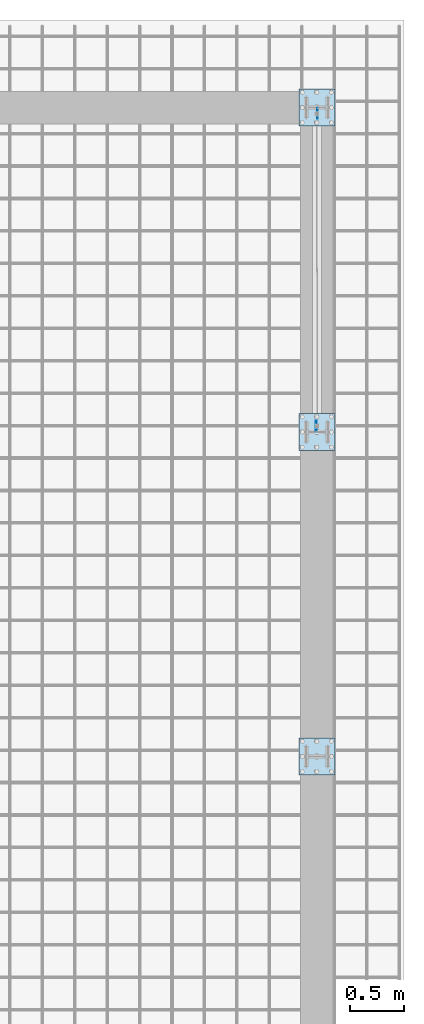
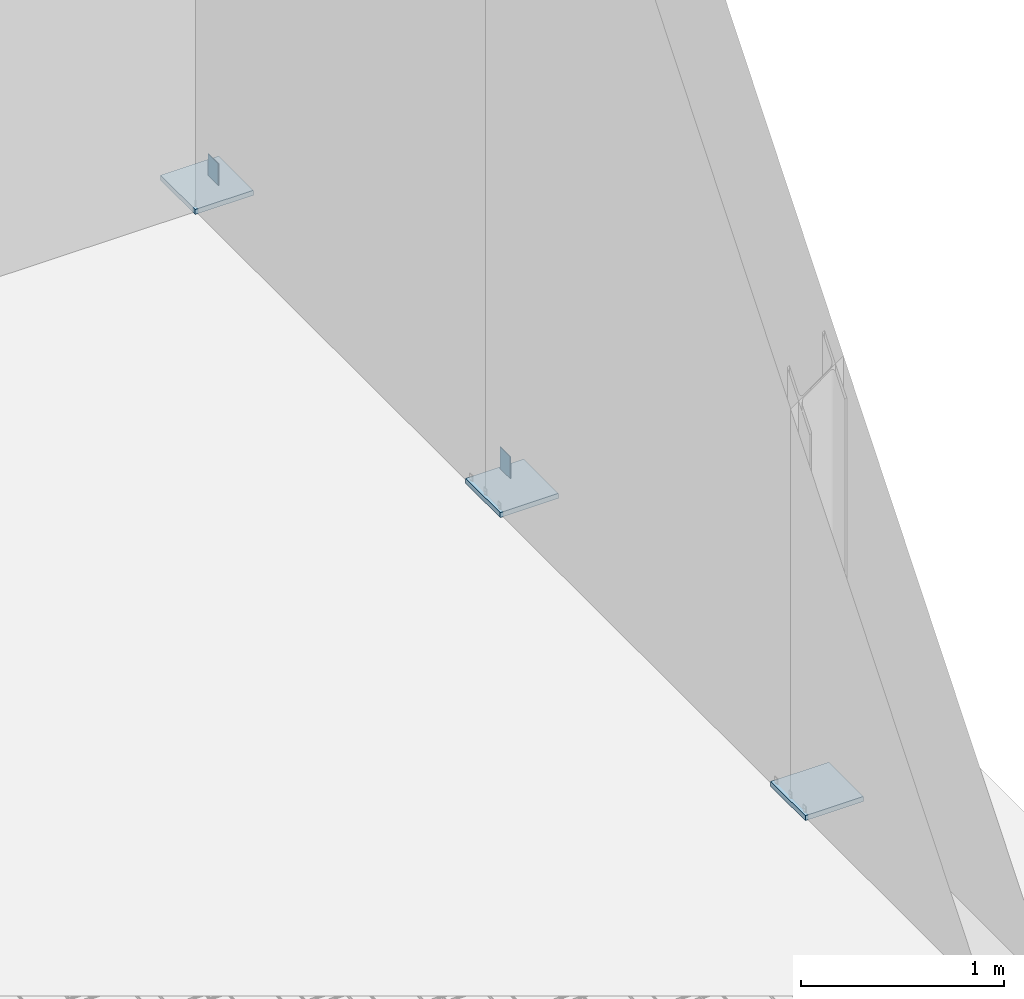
# One storey, part 3 of 29: 5 plates.
"""IFC4 building model written with IfcOpenShell, lengths in metres."""

import ifcopenshell
import ifcopenshell.guid

model = None  # the IFC model being written
_history = None  # IfcOwnerHistory: only IFC2X3 demands one
_inside = {}  # id of a spatial element -> (the spatial element, [elements in it])
_under = {}  # id of a project, library or spatial element -> (it, [spatial elements below it])
_declared = {}  # id of a project -> (the project, [libraries it declares])
_typed = {}  # id of a type object -> (the type object, [elements of that type])
_made_of = {}  # id of a material, layer set ... -> (it, [elements and type objects made of it])


def new_model(schema):
    """Start an empty IFC model of exactly this schema.

    Asked for "IFC4X3", IfcOpenShell would pick the latest addendum, in which some entities
    have other attributes; the version numbers below select the first issue.
    IFC2X3 requires an IfcOwnerHistory on every rooted entity: one is made here for all.
    """
    global model, _history
    if schema == "IFC4X3":
        model = ifcopenshell.file(schema_version=(4, 3, 0, 0))
    else:
        model = ifcopenshell.file(schema=schema)
    _inside.clear()
    _under.clear()
    _declared.clear()
    _typed.clear()
    _made_of.clear()
    _history = None
    if model.schema == "IFC2X3":
        org = make("IfcOrganization", Name="unknown")
        user = make(
            "IfcPersonAndOrganization",
            ThePerson=make("IfcPerson", FamilyName="unknown"),
            TheOrganization=org,
        )
        app = make(
            "IfcApplication",
            ApplicationDeveloper=org,
            Version="unknown",
            ApplicationFullName="unknown",
            ApplicationIdentifier="unknown",
        )
        _history = make(
            "IfcOwnerHistory",
            OwningUser=user,
            OwningApplication=app,
            ChangeAction="ADDED",
            CreationDate=0,
        )
    return model


def make(cls, **values):
    """One entity of the class cls with the attributes given. An attribute that is None is left unset."""
    return model.create_entity(
        cls, **{name: value for name, value in values.items() if value is not None}
    )


def rooted(cls, **values):
    """An entity with a GlobalId (a new one), such as an element, a storey or a relation."""
    return make(cls, GlobalId=ifcopenshell.guid.new(), OwnerHistory=_history, **values)


def si_unit(unit_type, name, prefix=None):
    """IfcSIUnit, for example si_unit("LENGTHUNIT", "METRE", prefix="MILLI")."""
    return make("IfcSIUnit", UnitType=unit_type, Prefix=prefix, Name=name)


def assignment(units):
    """IfcUnitAssignment: the units of a project."""
    return None if units is None else make("IfcUnitAssignment", Units=units)


def point(xyz):
    """IfcCartesianPoint."""
    return None if xyz is None else make("IfcCartesianPoint", Coordinates=xyz)


def direction(xyz):
    """IfcDirection."""
    return None if xyz is None else make("IfcDirection", DirectionRatios=xyz)


def frame(location, z_axis=None, x_axis=None):
    """IfcAxis2Placement3D, a coordinate frame: its origin and axes. An axis left out is left unset."""
    return make(
        "IfcAxis2Placement3D",
        Location=point(location),
        Axis=direction(z_axis),
        RefDirection=direction(x_axis),
    )


def origin_with_axes():
    """The frame at (0, 0, 0) with the z axis (0, 0, 1) and the x axis (1, 0, 0) written out."""
    return frame((0.0, 0.0, 0.0), z_axis=(0.0, 0.0, 1.0), x_axis=(1.0, 0.0, 0.0))


def place(relative_to, where):
    """IfcLocalPlacement: puts the frame where relative to a parent placement (None: the world)."""
    return make(
        "IfcLocalPlacement", PlacementRelTo=relative_to, RelativePlacement=where
    )


def context(
    kind, dimensions, precision=None, world=None, true_north=None, identifier=None
):
    """IfcGeometricRepresentationContext, for example the 3D "Model" context."""
    return make(
        "IfcGeometricRepresentationContext",
        ContextIdentifier=identifier,
        ContextType=kind,
        CoordinateSpaceDimension=dimensions,
        Precision=precision,
        WorldCoordinateSystem=world,
        TrueNorth=true_north,
    )


def project(units=None, contexts=None):
    """IfcProject with its units and contexts."""
    return rooted(
        "IfcProject",
        Name="project",
        RepresentationContexts=contexts,
        UnitsInContext=assignment(units),
    )


def spatial(cls, under=None, at=None, **own):
    """A site, building, storey or space (cls), placed at a placement, below another one or the project."""
    s = rooted(cls, ObjectPlacement=at, **own)
    if under is not None:
        _under.setdefault(under.id(), (under, []))[1].append(s)
    return s


def polyline(points):
    """IfcPolyline through the points."""
    return make("IfcPolyline", Points=[point(p) for p in points])


def outline(outer, holes=None, kind="AREA"):
    """IfcArbitraryClosedProfileDef: a profile drawn as a closed curve; with holes, ...WithVoids."""
    if holes is None:
        return make("IfcArbitraryClosedProfileDef", ProfileType=kind, OuterCurve=outer)
    return make(
        "IfcArbitraryProfileDefWithVoids",
        ProfileType=kind,
        OuterCurve=outer,
        InnerCurves=holes,
    )


def extrude(swept, where, along, depth):
    """IfcExtrudedAreaSolid: the profile swept, set in the frame where, extruded along a direction by depth."""
    return make(
        "IfcExtrudedAreaSolid",
        SweptArea=swept,
        Position=where,
        ExtrudedDirection=direction(along),
        Depth=depth,
    )


def shape(context_of_items, identifier, shape_type, items):
    """IfcShapeRepresentation: the items that make up one representation, for example the "Body"."""
    return make(
        "IfcShapeRepresentation",
        ContextOfItems=context_of_items,
        RepresentationIdentifier=identifier,
        RepresentationType=shape_type,
        Items=items,
    )


def made_of(thing, what):
    """Note that an element or type object is made of a material, layer set ...; save() writes the relation."""
    if what is not None:
        _made_of.setdefault(what.id(), (what, []))[1].append(thing)
    return thing


def type_object(cls, material=None, **own):
    """A type object (cls), such as IfcWallType, which elements share."""
    return made_of(rooted(cls, **own), material)


def element(
    cls,
    number,
    at=None,
    inside=None,
    cuts=None,
    type_object=None,
    material=None,
    context=None,
    identifier="Body",
    shape_type=None,
    held_by="IfcProductDefinitionShape",
    body=None,
    shapes=None,
    **own,
):
    """One element of the class cls, such as IfcWall. Its Tag is "e" and its number.

    at: its placement. inside: the storey or other place that contains it. cuts: it is an
    opening in that element (IfcRelVoidsElement). A single representation is given by context,
    identifier, shape_type and body (its items); several are given by shapes. held_by: the class
    of the entity that holds the representations. save() writes the other relations.
    """
    e = rooted(cls, Tag="e%d" % number, ObjectPlacement=at, **own)
    if body is not None:
        shapes = [shape(context, identifier, shape_type, body)]
    if shapes is not None:
        e.Representation = make(held_by, Representations=shapes)
    if inside is not None:
        _inside.setdefault(inside.id(), (inside, []))[1].append(e)
    if cuts is not None:
        rooted(
            "IfcRelVoidsElement", RelatingBuildingElement=cuts, RelatedOpeningElement=e
        )
    if type_object is not None:
        _typed.setdefault(type_object.id(), (type_object, []))[1].append(e)
    return made_of(e, material)


def aggregate(whole, parts):
    """IfcRelAggregates: a whole, such as a stair, and the parts it consists of."""
    return rooted("IfcRelAggregates", RelatingObject=whole, RelatedObjects=parts)


def save(model, path):
    """Write the relations noted so far, then the file.

    IfcRelAggregates (storeys below a building ...), IfcRelContainedInSpatialStructure (elements
    in a storey), IfcRelDefinesByType, IfcRelAssociatesMaterial and IfcRelDeclares: one each for
    every whole, place, type object, material and project.
    """
    for whole, parts in _under.values():
        aggregate(whole, parts)
    for where, things in _inside.values():
        rooted(
            "IfcRelContainedInSpatialStructure",
            RelatedElements=things,
            RelatingStructure=where,
        )
    for kind, things in _typed.values():
        rooted("IfcRelDefinesByType", RelatedObjects=things, RelatingType=kind)
    for what, things in _made_of.values():
        rooted("IfcRelAssociatesMaterial", RelatedObjects=things, RelatingMaterial=what)
    for by, libraries in _declared.values():
        rooted("IfcRelDeclares", RelatingContext=by, RelatedDefinitions=libraries)
    model.write(path)


model = new_model("IFC4")

# Units and contexts
model_context = context("Model", 3, precision=1e-05, world=origin_with_axes())
ifc_project = project(units=[si_unit("LENGTHUNIT", "METRE"), si_unit("AREAUNIT", "SQUARE_METRE"), si_unit("VOLUMEUNIT", "CUBIC_METRE"), si_unit("MASSUNIT", "GRAM", prefix="KILO"), si_unit("TIMEUNIT", "SECOND"), si_unit("PLANEANGLEUNIT", "RADIAN"), si_unit("SOLIDANGLEUNIT", "STERADIAN"), si_unit("THERMODYNAMICTEMPERATUREUNIT", "DEGREE_CELSIUS")], contexts=[model_context])

# Site, building, storey
placement_1 = place(None, origin_with_axes())
site = spatial("IfcSite", under=ifc_project, at=placement_1, Name="Italia", CompositionType="ELEMENT")
building = spatial("IfcBuilding", under=site, at=placement_1, Name="Capannone", CompositionType="ELEMENT")
storey = spatial("IfcBuildingStorey", under=building, at=placement_1, Name="Storey 0", CompositionType="ELEMENT", Elevation=0.0)

# Plates
plate_type_1 = type_object("IfcPlateType", Name="Collegamenti 0001_0101 0002_0102 0003_0103 0004_0104 0005_0105 0006_0106 0007_0107 0008_0108 0009_0109 0010_0110 0011_0111 0012_0112", PredefinedType="SHEET")
placement_2 = place(placement_1, origin_with_axes())
plate_1_placement = place(placement_2, origin_with_axes())
element("IfcPlate", 1, at=plate_1_placement, inside=storey, type_object=plate_type_1, Name="Collegamenti 0001_0101 0002_0102 0003_0103 0004_0104 0005_0105 0006_0106 0007_0107 0008_0108 0009_0109 0010_0110 0011_0111 0012_0112", context=model_context, shape_type="SweptSolid", body=[
    extrude(outline(polyline([(0.0, 0.0), (0.34, 0.0), (0.34, -0.33), (0.0, -0.33), (0.0, 0.0)])), frame((14.165, 8.83, 0.03), z_axis=(0.0, 0.0, -1.0), x_axis=(0.0, 1.0, 0.0)), (0.0, 0.0, 1.0), 0.03),
])
plate_type_2 = type_object("IfcPlateType", Name="Collegamenti 0001_0101 0002_0102 0003_0103 0004_0104 0005_0105 0006_0106 0007_0107 0008_0108 0009_0109 0010_0110 0011_0111 0012_0112", PredefinedType="SHEET")
plate_2_placement = place(placement_2, origin_with_axes())
element("IfcPlate", 2, at=plate_2_placement, inside=storey, type_object=plate_type_2, Name="Collegamenti 0001_0101 0002_0102 0003_0103 0004_0104 0005_0105 0006_0106 0007_0107 0008_0108 0009_0109 0010_0110 0011_0111 0012_0112", context=model_context, shape_type="SweptSolid", body=[
    extrude(outline(polyline([(0.0, 0.0), (0.34, 0.0), (0.34, -0.33), (0.0, -0.33), (0.0, 0.0)])), frame((14.165, 11.83, 0.03), z_axis=(0.0, 0.0, -1.0), x_axis=(0.0, 1.0, 0.0)), (0.0, 0.0, 1.0), 0.03),
])
plate_type_3 = type_object("IfcPlateType", Name="Collegamenti 0001_0101 0002_0102 0003_0103 0004_0104 0005_0105 0006_0106 0007_0107 0008_0108 0009_0109 0010_0110 0011_0111 0012_0112", PredefinedType="SHEET")
plate_3_placement = place(placement_2, origin_with_axes())
element("IfcPlate", 3, at=plate_3_placement, inside=storey, type_object=plate_type_3, Name="Collegamenti 0001_0101 0002_0102 0003_0103 0004_0104 0005_0105 0006_0106 0007_0107 0008_0108 0009_0109 0010_0110 0011_0111 0012_0112", context=model_context, shape_type="SweptSolid", body=[
    extrude(outline(polyline([(0.0, 0.0), (0.34, 0.0), (0.34, -0.33), (0.0, -0.33), (0.0, 0.0)])), frame((14.165, 14.83, 0.03), z_axis=(0.0, 0.0, -1.0), x_axis=(0.0, 1.0, 0.0)), (0.0, 0.0, 1.0), 0.03),
])
plate_type_4 = type_object("IfcPlateType", Name="Collegamento 0010_0112", PredefinedType="SHEET")
plate_4_placement = place(placement_2, origin_with_axes())
element("IfcPlate", 4, at=plate_4_placement, inside=storey, type_object=plate_type_4, Name="Collegamento 0010_0112", context=model_context, shape_type="SweptSolid", body=[
    extrude(outline(polyline([(0.0, 0.0), (-0.1, -3.12924e-07), (-0.1, -0.13), (0.0, -0.13), (0.0, 0.0)])), frame((13.991, 12.1035, 0.204828), z_axis=(1.0, 0.0, 0.0), x_axis=(0.0, 1.0, 0.0)), (0.0, 0.0, 1.0), 0.00500011),
])
plate_type_5 = type_object("IfcPlateType", Name="Collegamento 0012_0110", PredefinedType="SHEET")
plate_5_placement = place(placement_2, origin_with_axes())
element("IfcPlate", 5, at=plate_5_placement, inside=storey, type_object=plate_type_5, Name="Collegamento 0012_0110", context=model_context, shape_type="SweptSolid", body=[
    extrude(outline(polyline([(0.0, 0.0), (-0.0999994, 0.0), (-0.0999994, -0.13), (0.0, -0.13), (0.0, 0.0)])), frame((14.009, 14.8965, 0.204827), z_axis=(-1.0, 0.0, 0.0), x_axis=(0.0, -1.0, 0.0)), (0.0, 0.0, 1.0), 0.00500011),
])

save(model, "model.ifc")
